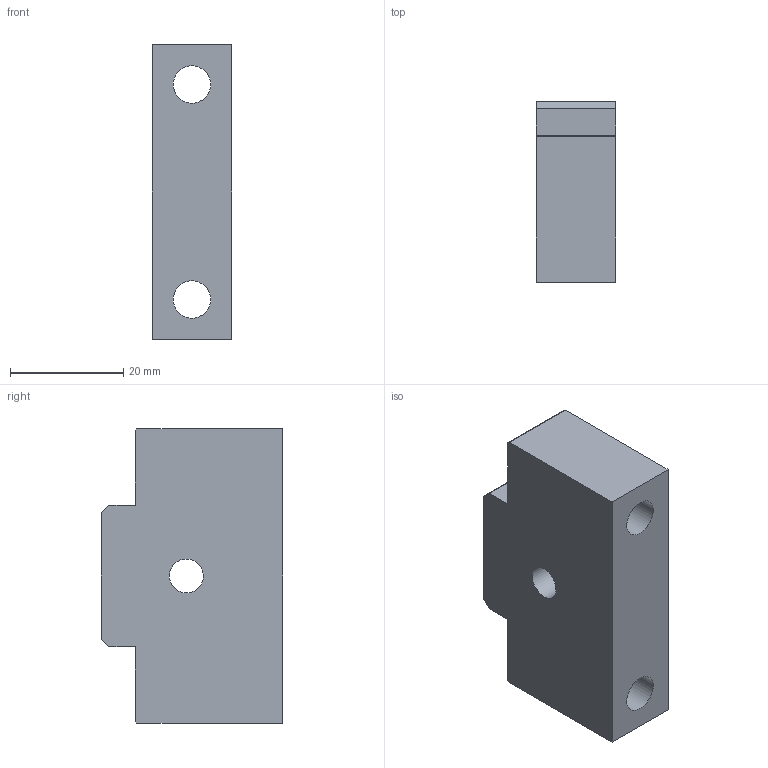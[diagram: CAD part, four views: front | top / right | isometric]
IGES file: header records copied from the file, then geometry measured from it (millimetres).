
Global section: file name: Опора плавающая EF08 01.00; native system: Autodesk Inventor 2016; preprocessor: unknown; author: TraceParts; organization: TraceParts S.A.; date: 20170126.082328; units: millimetre
Bounding box: 14 x 32 x 52 mm (x, y, z)
Volume: 16108.6 mm3; surface area: 7042.8 mm2
Topology: 1 solids, 1 shells, 23 faces, 57 edges, 39 vertices
Faces by surface type: bspline 23
